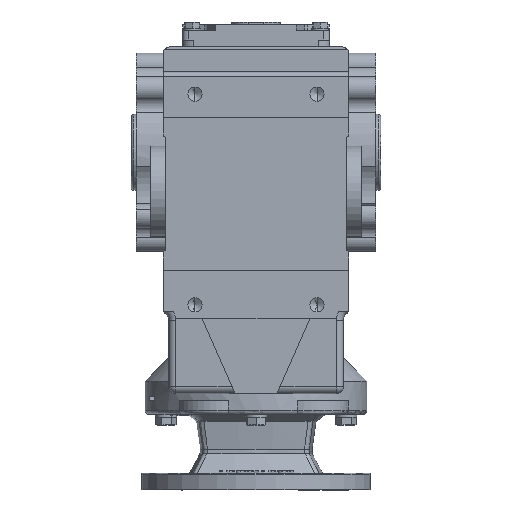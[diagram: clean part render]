
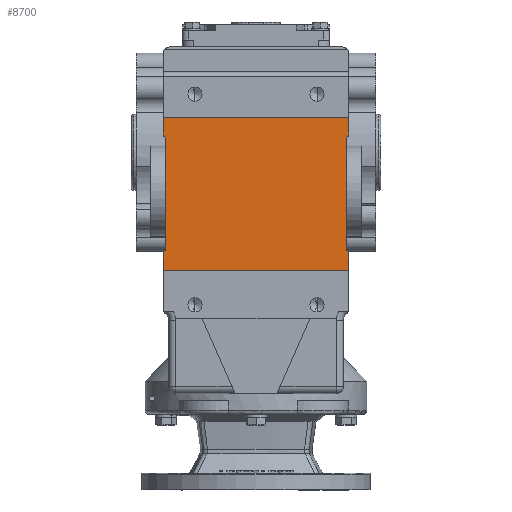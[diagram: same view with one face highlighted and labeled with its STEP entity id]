
A CAD part, front view. The second image highlights one B-rep face of the part: STEP entity #8700.
In plain terms, the highlighted planar face has unit normal (0, -1, 0).
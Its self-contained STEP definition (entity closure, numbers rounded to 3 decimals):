
#1901 = CIRCLE ( 'NONE', #21816, 5. ) ;
#1923 = VECTOR ( 'NONE', #32713, 1000. ) ;
#2009 = LINE ( 'NONE', #32712, #1923 ) ;
#2138 = VECTOR ( 'NONE', #15024, 1000. ) ;
#2145 = LINE ( 'NONE', #15022, #2138 ) ;
#2278 = CIRCLE ( 'NONE', #21779, 5. ) ;
#3669 = ORIENTED_EDGE ( 'NONE', *, *, #43175, .T. ) ;
#8700 = ADVANCED_FACE ( 'NONE', ( #19650 ), #37161, .F. ) ;
#9932 = LINE ( 'NONE', #39805, #9936 ) ;
#9936 = VECTOR ( 'NONE', #39806, 1000. ) ;
#10122 = LINE ( 'NONE', #45713, #10126 ) ;
#10125 = LINE ( 'NONE', #45716, #10127 ) ;
#10126 = VECTOR ( 'NONE', #45717, 1000. ) ;
#10127 = VECTOR ( 'NONE', #45714, 1000. ) ;
#10128 = LINE ( 'NONE', #45718, #10129 ) ;
#10129 = VECTOR ( 'NONE', #45719, 1000. ) ;
#10130 = LINE ( 'NONE', #45727, #10134 ) ;
#10131 = CIRCLE ( 'NONE', #43534, 5. ) ;
#10134 = VECTOR ( 'NONE', #45725, 1000. ) ;
#10196 = VECTOR ( 'NONE', #45720, 1000. ) ;
#10197 = LINE ( 'NONE', #45721, #10196 ) ;
#10198 = CIRCLE ( 'NONE', #43533, 5. ) ;
#14970 = CARTESIAN_POINT ( 'NONE',  ( 62., -136., -74. ) ) ;
#14972 = DIRECTION ( 'NONE',  ( 0., -1., 0. ) ) ;
#14974 = DIRECTION ( 'NONE',  ( 0., 0., 1. ) ) ;
#15022 = CARTESIAN_POINT ( 'NONE',  ( 67., -136., -70. ) ) ;
#15024 = DIRECTION ( 'NONE',  ( 0., 0., 1. ) ) ;
#16250 = CARTESIAN_POINT ( 'NONE',  ( 67., -136., -85. ) ) ;
#18999 = EDGE_CURVE ( 'NONE', #33803, #33753, #2278, .T. ) ;
#19010 = EDGE_CURVE ( 'NONE', #31000, #33803, #2145, .T. ) ;
#19084 = EDGE_CURVE ( 'NONE', #33753, #33976, #2009, .T. ) ;
#19090 = EDGE_CURVE ( 'NONE', #33976, #34065, #1901, .T. ) ;
#19650 = FACE_OUTER_BOUND ( 'NONE', #31263, .T. ) ;
#21779 = AXIS2_PLACEMENT_3D ( 'NONE', #14970, #14972, #14974 ) ;
#21816 = AXIS2_PLACEMENT_3D ( 'NONE', #32728, #32729, #32730 ) ;
#31000 = VERTEX_POINT ( 'NONE', #16250 ) ;
#31029 = VERTEX_POINT ( 'NONE', #37758 ) ;
#31263 = EDGE_LOOP ( 'NONE', ( #33855, #32825, #34087, #34246, #33027, #34021, #33818, #33169, #33772, #32953, #33255, #3669 ) ) ;
#32712 = CARTESIAN_POINT ( 'NONE',  ( 65., -136., 6. ) ) ;
#32713 = DIRECTION ( 'NONE',  ( 0., 0., 1. ) ) ;
#32728 = CARTESIAN_POINT ( 'NONE',  ( 62., -136., 14. ) ) ;
#32729 = DIRECTION ( 'NONE',  ( 0., -1., 0. ) ) ;
#32730 = DIRECTION ( 'NONE',  ( 0., 0., 1. ) ) ;
#32825 = ORIENTED_EDGE ( 'NONE', *, *, #18999, .T. ) ;
#32906 = VERTEX_POINT ( 'NONE', #37985 ) ;
#32940 = VERTEX_POINT ( 'NONE', #37994 ) ;
#32953 = ORIENTED_EDGE ( 'NONE', *, *, #43067, .T. ) ;
#33027 = ORIENTED_EDGE ( 'NONE', *, *, #43059, .T. ) ;
#33126 = VERTEX_POINT ( 'NONE', #38010 ) ;
#33169 = ORIENTED_EDGE ( 'NONE', *, *, #43063, .T. ) ;
#33255 = ORIENTED_EDGE ( 'NONE', *, *, #43069, .T. ) ;
#33686 = VERTEX_POINT ( 'NONE', #38141 ) ;
#33753 = VERTEX_POINT ( 'NONE', #38163 ) ;
#33772 = ORIENTED_EDGE ( 'NONE', *, *, #43065, .F. ) ;
#33802 = VERTEX_POINT ( 'NONE', #38181 ) ;
#33803 = VERTEX_POINT ( 'NONE', #38178 ) ;
#33818 = ORIENTED_EDGE ( 'NONE', *, *, #43061, .T. ) ;
#33855 = ORIENTED_EDGE ( 'NONE', *, *, #19010, .T. ) ;
#33889 = VERTEX_POINT ( 'NONE', #38205 ) ;
#33976 = VERTEX_POINT ( 'NONE', #38246 ) ;
#34021 = ORIENTED_EDGE ( 'NONE', *, *, #43056, .T. ) ;
#34065 = VERTEX_POINT ( 'NONE', #38277 ) ;
#34087 = ORIENTED_EDGE ( 'NONE', *, *, #19084, .T. ) ;
#34246 = ORIENTED_EDGE ( 'NONE', *, *, #19090, .T. ) ;
#34970 = AXIS2_PLACEMENT_3D ( 'NONE', #37159, #37164, #37165 ) ;
#37159 = CARTESIAN_POINT ( 'NONE',  ( 86.5, -136., -66. ) ) ;
#37161 = PLANE ( 'NONE',  #34970 ) ;
#37164 = DIRECTION ( 'NONE',  ( 0., 1., 0. ) ) ;
#37165 = DIRECTION ( 'NONE',  ( 0., 0., 1. ) ) ;
#37758 = CARTESIAN_POINT ( 'NONE',  ( -67., -136., -85. ) ) ;
#37985 = CARTESIAN_POINT ( 'NONE',  ( -67., -136., -74. ) ) ;
#37994 = CARTESIAN_POINT ( 'NONE',  ( -65., -136., -70. ) ) ;
#38010 = CARTESIAN_POINT ( 'NONE',  ( -67., -136., 14. ) ) ;
#38141 = CARTESIAN_POINT ( 'NONE',  ( -67., -136., 25. ) ) ;
#38163 = CARTESIAN_POINT ( 'NONE',  ( 65., -136., -70. ) ) ;
#38178 = CARTESIAN_POINT ( 'NONE',  ( 67., -136., -74. ) ) ;
#38181 = CARTESIAN_POINT ( 'NONE',  ( -65., -136., 10. ) ) ;
#38205 = CARTESIAN_POINT ( 'NONE',  ( 67., -136., 25. ) ) ;
#38246 = CARTESIAN_POINT ( 'NONE',  ( 65., -136., 10. ) ) ;
#38277 = CARTESIAN_POINT ( 'NONE',  ( 67., -136., 14. ) ) ;
#39805 = CARTESIAN_POINT ( 'NONE',  ( -67., -136., -85. ) ) ;
#39806 = DIRECTION ( 'NONE',  ( 1., 0., 0. ) ) ;
#43056 = EDGE_CURVE ( 'NONE', #33889, #33686, #10122, .T. ) ;
#43059 = EDGE_CURVE ( 'NONE', #34065, #33889, #10125, .T. ) ;
#43061 = EDGE_CURVE ( 'NONE', #33686, #33126, #10128, .T. ) ;
#43063 = EDGE_CURVE ( 'NONE', #33126, #33802, #10198, .T. ) ;
#43065 = EDGE_CURVE ( 'NONE', #32940, #33802, #10197, .T. ) ;
#43067 = EDGE_CURVE ( 'NONE', #32940, #32906, #10131, .T. ) ;
#43069 = EDGE_CURVE ( 'NONE', #32906, #31029, #10130, .T. ) ;
#43175 = EDGE_CURVE ( 'NONE', #31029, #31000, #9932, .T. ) ;
#43533 = AXIS2_PLACEMENT_3D ( 'NONE', #45722, #45723, #45724 ) ;
#43534 = AXIS2_PLACEMENT_3D ( 'NONE', #45728, #45729, #45730 ) ;
#45713 = CARTESIAN_POINT ( 'NONE',  ( -67., -136., 25. ) ) ;
#45714 = DIRECTION ( 'NONE',  ( 0., 0., 1. ) ) ;
#45716 = CARTESIAN_POINT ( 'NONE',  ( 67., -136., 25. ) ) ;
#45717 = DIRECTION ( 'NONE',  ( -1., 0., 0. ) ) ;
#45718 = CARTESIAN_POINT ( 'NONE',  ( -67., -136., 25. ) ) ;
#45719 = DIRECTION ( 'NONE',  ( 0., 0., -1. ) ) ;
#45720 = DIRECTION ( 'NONE',  ( 0., 0., 1. ) ) ;
#45721 = CARTESIAN_POINT ( 'NONE',  ( -65., -136., 6. ) ) ;
#45722 = CARTESIAN_POINT ( 'NONE',  ( -62., -136., 14. ) ) ;
#45723 = DIRECTION ( 'NONE',  ( 0., -1., 0. ) ) ;
#45724 = DIRECTION ( 'NONE',  ( 0., 0., 1. ) ) ;
#45725 = DIRECTION ( 'NONE',  ( 0., 0., -1. ) ) ;
#45727 = CARTESIAN_POINT ( 'NONE',  ( -67., -136., -70. ) ) ;
#45728 = CARTESIAN_POINT ( 'NONE',  ( -62., -136., -74. ) ) ;
#45729 = DIRECTION ( 'NONE',  ( 0., -1., 0. ) ) ;
#45730 = DIRECTION ( 'NONE',  ( 0., 0., 1. ) ) ;
